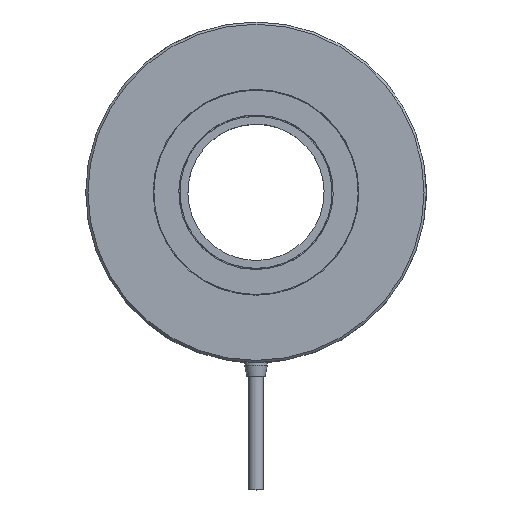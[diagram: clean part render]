
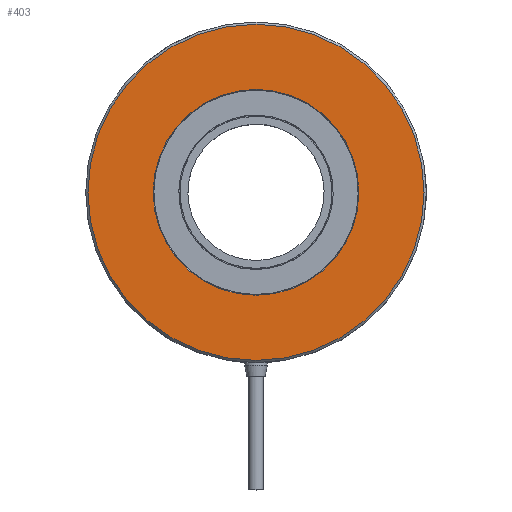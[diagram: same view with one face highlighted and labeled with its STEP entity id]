
A CAD part, top view. The second image highlights one B-rep face of the part: STEP entity #403.
In plain terms, the highlighted planar face has unit normal (0, 0, 1).
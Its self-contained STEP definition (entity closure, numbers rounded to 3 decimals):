
#403=ADVANCED_FACE('',(#696,#697),#698,.F.);
#696=FACE_BOUND('',#1022,.T.);
#697=FACE_OUTER_BOUND('',#1023,.T.);
#698=PLANE('',#1024);
#1022=EDGE_LOOP('',(#1450));
#1023=EDGE_LOOP('',(#1451));
#1024=AXIS2_PLACEMENT_3D('',#1452,#1453,#1454);
#1450=ORIENTED_EDGE('',*,*,#1963,.T.);
#1451=ORIENTED_EDGE('',*,*,#1967,.T.);
#1452=CARTESIAN_POINT('',(60.0,0.,50.0));
#1453=DIRECTION('',(0.,0.,-1.0));
#1454=DIRECTION('',(0.,-1.0,0.));
#1963=EDGE_CURVE('',#2242,#2242,#2243,.T.);
#1967=EDGE_CURVE('',#2247,#2247,#2248,.F.);
#2242=VERTEX_POINT('',#2997);
#2243=CIRCLE('',#2998,45.3);
#2247=VERTEX_POINT('',#3002);
#2248=CIRCLE('',#3003,74.0);
#2997=CARTESIAN_POINT('',(0.,-45.3,50.0));
#2998=AXIS2_PLACEMENT_3D('',#3473,#3474,#3475);
#3002=CARTESIAN_POINT('',(0.,-74.0,50.));
#3003=AXIS2_PLACEMENT_3D('',#3476,#3477,#3478);
#3473=CARTESIAN_POINT('',(0.,0.,50.0));
#3474=DIRECTION('',(0.,0.,-1.0));
#3475=DIRECTION('',(0.,-1.0,0.));
#3476=CARTESIAN_POINT('',(0.,0.,50.0));
#3477=DIRECTION('',(0.,0.,-1.0));
#3478=DIRECTION('',(0.,-1.0,0.));
